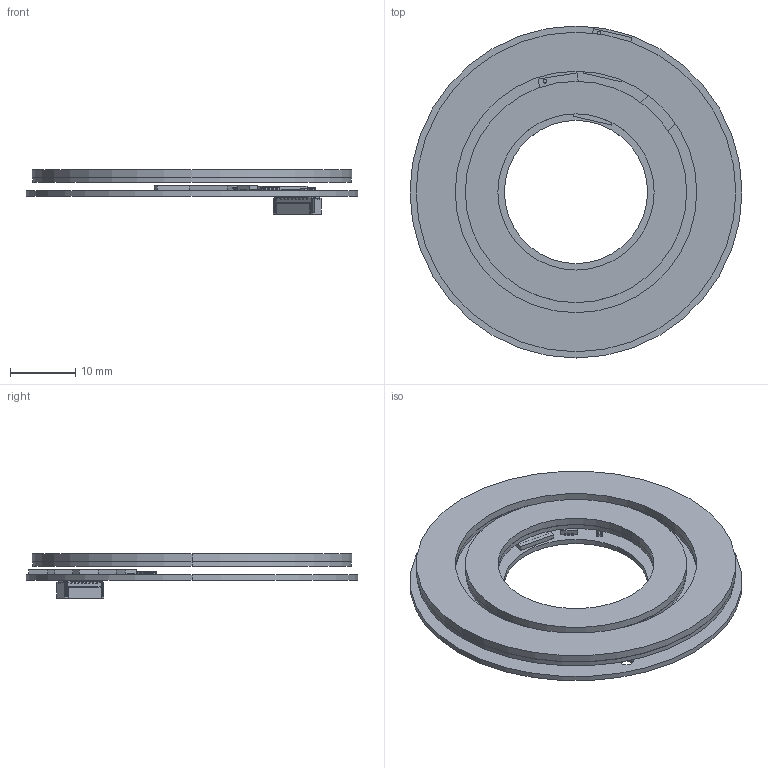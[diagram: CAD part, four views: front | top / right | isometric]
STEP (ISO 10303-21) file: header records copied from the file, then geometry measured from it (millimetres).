
FILE_DESCRIPTION((''),'2;1');
FILE_NAME('EAS-J068KM-HD_ASM','2026-09-02T',('guxinfeng'),(''),'PRO/ENGINEER BY PARAMETRIC TECHNOLOGY CORPORATION, 2012480','PRO/ENGINEER BY PARAMETRIC TECHNOLOGY CORPORATION, 2012480','');
FILE_SCHEMA(('CONFIG_CONTROL_DESIGN'));
Products named in the file (71): OPEN_CASCADE_STEP_TRANSLATO-138; BOARD_ASM; OPEN_CASCADE_STEP_TRANSLATO-509; OPEN_CASCADE_STEP_TRANSLATO-982; TERMINAL-495_ASM; OPEN_CASCADE_STEP_TRANSLAT-1478; MID_BODY-1468_ASM; 6160430784_ASM; C5_ASM; OPEN_CASCADE_STEP_TRANSLAT-1864; OPEN_CASCADE_STEP_TRANSLAT-2337; TERMINAL-1850_ASM; OPEN_CASCADE_STEP_TRANSLAT-2833; MID_BODY-2823_ASM; 10773754800_ASM; C4_ASM; TPG4899YD; U5_ASM; MID_BODY-14246; OPEN_CASCADE_STEP_TRANSLA-14432; TERMINAL-14422_ASM; MARK-14744; 11163721504_ASM; R11_ASM; R1_ASM; EXTRUDED; 6197574384_ASM; D1_ASM; C16_ASM; C12_ASM; C3_ASM; OPEN_CASCADE_STEP_TRANSLA-15311; OPEN_CASCADE_STEP_TRANSLA-15784; TERMINAL-15297_ASM; OPEN_CASCADE_STEP_TRANSLA-16280; MID_BODY-16270_ASM; 6367304240_ASM; C1_ASM; R7_ASM; R6_ASM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
Assembly tree (86 placements, depth 6):
  EAS-J068KM-HD_ASM
    PCB_ASM
      BOARD_ASM
        OPEN_CASCADE_STEP_TRANSLATO-138
      C5_ASM
        6160430784_ASM
          TERMINAL-495_ASM
            OPEN_CASCADE_STEP_TRANSLATO-509
            OPEN_CASCADE_STEP_TRANSLATO-982
          MID_BODY-1468_ASM
            OPEN_CASCADE_STEP_TRANSLAT-1478
      C4_ASM
        10773754800_ASM
          TERMINAL-1850_ASM
            OPEN_CASCADE_STEP_TRANSLAT-1864
            OPEN_CASCADE_STEP_TRANSLAT-2337
          MID_BODY-2823_ASM
            OPEN_CASCADE_STEP_TRANSLAT-2833
      U5_ASM
        TPG4899YD
      R11_ASM
        11163721504_ASM
          MID_BODY-14246
          TERMINAL-14422_ASM  x2
            OPEN_CASCADE_STEP_TRANSLA-14432
          MARK-14744
      R1_ASM
        11163721504_ASM
          MID_BODY-14246
          TERMINAL-14422_ASM  x2
            OPEN_CASCADE_STEP_TRANSLA-14432
          MARK-14744
      D1_ASM
        6197574384_ASM
          EXTRUDED
      C16_ASM
        6160430784_ASM
          TERMINAL-495_ASM
            OPEN_CASCADE_STEP_TRANSLATO-509
            OPEN_CASCADE_STEP_TRANSLATO-982
          MID_BODY-1468_ASM
            OPEN_CASCADE_STEP_TRANSLAT-1478
      C12_ASM
        10773754800_ASM
          TERMINAL-1850_ASM
            OPEN_CASCADE_STEP_TRANSLAT-1864
            OPEN_CASCADE_STEP_TRANSLAT-2337
          MID_BODY-2823_ASM
            OPEN_CASCADE_STEP_TRANSLAT-2833
      C3_ASM
        6160430784_ASM
          TERMINAL-495_ASM
            OPEN_CASCADE_STEP_TRANSLATO-509
            OPEN_CASCADE_STEP_TRANSLATO-982
          MID_BODY-1468_ASM
            OPEN_CASCADE_STEP_TRANSLAT-1478
      C1_ASM
        6367304240_ASM
          TERMINAL-15297_ASM
            OPEN_CASCADE_STEP_TRANSLA-15311
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Bounding box: 51 x 51 x 6.84 mm (x, y, z)
Volume: 3890.6 mm3; surface area: 10045.3 mm2
Topology: 67 solids, 71 shells, 2640 faces, 7303 edges, 4702 vertices
Faces by surface type: plane 1960, cylinder 502, extrusion 94, sphere 80, cone 4
Entity records: 88715 total; most frequent: CARTESIAN_POINT 13188, ORIENTED_EDGE 11800, DIRECTION 10774, PRESENTATION_STYLE_ASSIGNMENT 6160, STYLED_ITEM 5931, EDGE_CURVE 5900, CURVE_STYLE 5841, VECTOR 5016
